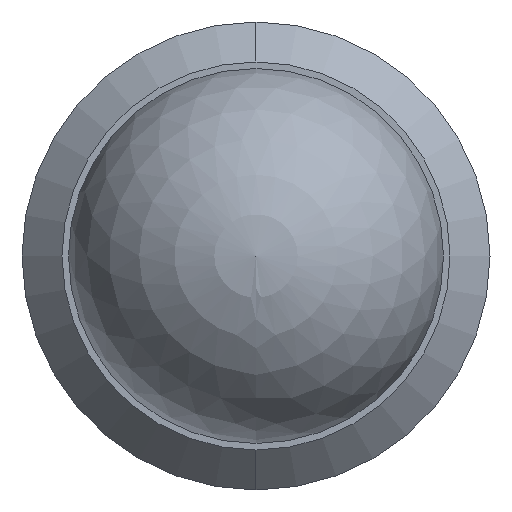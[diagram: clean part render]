
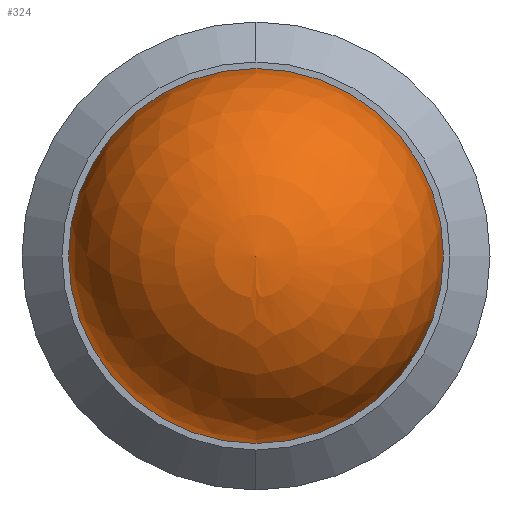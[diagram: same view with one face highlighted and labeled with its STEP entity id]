
A CAD part, left-side view. The second image highlights one B-rep face of the part: STEP entity #324.
In plain terms, the highlighted spherical face has radius 1.191 mm.
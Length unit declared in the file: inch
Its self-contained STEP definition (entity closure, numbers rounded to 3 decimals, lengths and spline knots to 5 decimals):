
#18 = DIRECTION ( 'NONE',  ( 0., 0., -1. ) ) ;
#29 = DIRECTION ( 'NONE',  ( 1., 0., 0. ) ) ;
#35 = VERTEX_POINT ( 'NONE', #357 ) ;
#58 = EDGE_CURVE ( 'NONE', #524, #35, #198, .T. ) ;
#159 = CIRCLE ( 'NONE', #221, 0.04688 ) ;
#173 = EDGE_LOOP ( 'NONE', ( #441, #473 ) ) ;
#185 = AXIS2_PLACEMENT_3D ( 'NONE', #503, #507, #558 ) ;
#198 = CIRCLE ( 'NONE', #375, 0.04688 ) ;
#221 = AXIS2_PLACEMENT_3D ( 'NONE', #589, #29, #18 ) ;
#229 = CARTESIAN_POINT ( 'NONE',  ( 0., 0.04688, 0. ) ) ;
#246 = EDGE_CURVE ( 'NONE', #524, #35, #159, .T. ) ;
#257 = SPHERICAL_SURFACE ( 'NONE', #185, 0.04688 ) ;
#269 = DIRECTION ( 'NONE',  ( 0., 0., 1. ) ) ;
#324 = ADVANCED_FACE ( 'NONE', ( #502 ), #257, .T. ) ;
#328 = DIRECTION ( 'NONE',  ( -1., 0., 0. ) ) ;
#357 = CARTESIAN_POINT ( 'NONE',  ( 0., -0.04688, 0. ) ) ;
#375 = AXIS2_PLACEMENT_3D ( 'NONE', #409, #328, #269 ) ;
#409 = CARTESIAN_POINT ( 'NONE',  ( 0., 0., 0. ) ) ;
#441 = ORIENTED_EDGE ( 'NONE', *, *, #246, .F. ) ;
#473 = ORIENTED_EDGE ( 'NONE', *, *, #58, .T. ) ;
#502 = FACE_OUTER_BOUND ( 'NONE', #173, .T. ) ;
#503 = CARTESIAN_POINT ( 'NONE',  ( 0., 0., 0. ) ) ;
#507 = DIRECTION ( 'NONE',  ( 1., 0., 0. ) ) ;
#524 = VERTEX_POINT ( 'NONE', #229 ) ;
#558 = DIRECTION ( 'NONE',  ( 0., 0., -1. ) ) ;
#589 = CARTESIAN_POINT ( 'NONE',  ( 0., 0., 0. ) ) ;
